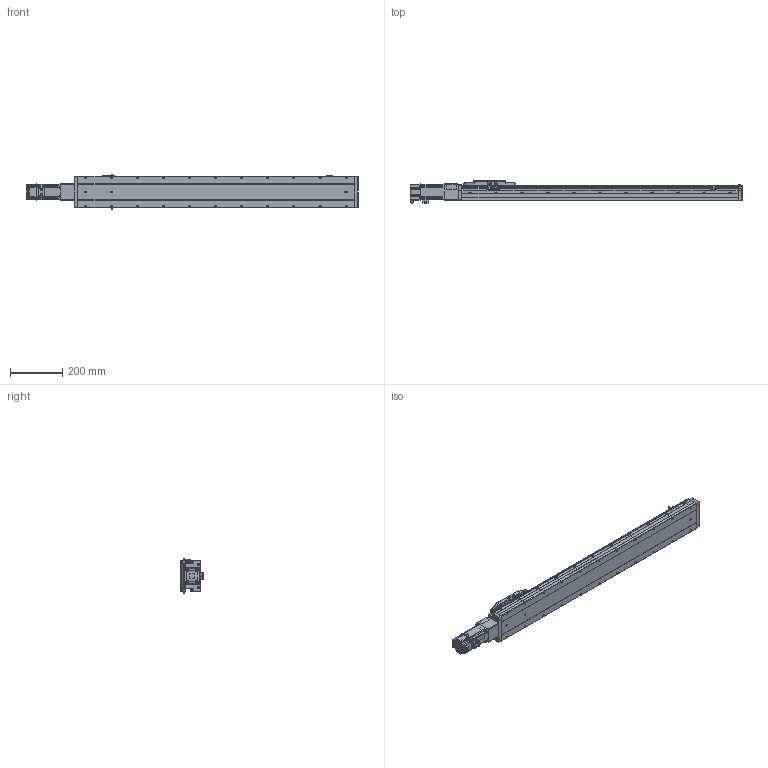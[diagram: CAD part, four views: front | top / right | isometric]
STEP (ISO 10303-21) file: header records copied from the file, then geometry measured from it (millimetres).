
FILE_DESCRIPTION (( 'STEP AP214' ), '1' );
FILE_NAME ('CTH12-L10-S850-BC-C40（简）.STEP', '2023-02-06T05:15:32', ( '' ), ( '' ), 'SwSTEP 2.0', 'SolidWorks 2018', '' );
FILE_SCHEMA (( 'AUTOMOTIVE_DESIGN' ));
Length unit declared in the file: millimetre
Products named in the file (23): CTH12-BL_body_4; hex nuts, style 1-grades ab gb_GB_FASTENER_NUT_SNAB1 M3-N; CTH12_body_3; CTH12萇儂釱; CTH12賑怢ㄗ潠ㄘ; CTH12-BC-06-T40（cth8-bc-06-t40-G）_1; 嫖萇羲壽郪磁2; M5蹟隊; CTH嫖萇羲壽假蚾啣; CTH12賑怢郪磁; 内六角圆柱头螺钉M3; CTH12; 湮賑怢  裔赽-1(CTH12)賑怢; 蚐郲; CTH12覜茼え; 400W萇儂; CTH12-L10-S850-BC-C40（简）; 内六角圆柱头螺钉M3-2; 内六角圆柱头螺钉M3-1; CTH12-BC-03_1; PM-Y45; CTH12底座-L1061简（850行程）; 嫖萇羲壽郪磁1333
Assembly tree (43 placements, depth 4):
  CTH12-L10-S850-BC-C40（简）
    CTH12底座-L1061简（850行程）
    蚐郲  x2
    CTH12-BL_body_4
    CTH12_body_3
    CTH12賑怢郪磁
      CTH12
        湮賑怢  裔赽-1(CTH12)賑怢
        CTH12賑怢ㄗ潠ㄘ
    CTH12覜茼え
    嫖萇羲壽郪磁2
      CTH嫖萇羲壽假蚾啣
      PM-Y45
      内六角圆柱头螺钉M3-1  x2
      内六角圆柱头螺钉M3-2  x2
      hex nuts, style 1-grades ab gb_GB_FASTENER_NUT_SNAB1 M3-N  x2
    CTH12萇儂釱
      CTH12-BC-03_1
      CTH12-BC-06-T40（cth8-bc-06-t40-G）_1
    嫖萇羲壽郪磁1333  x2
      CTH嫖萇羲壽假蚾啣
      PM-Y45
      内六角圆柱头螺钉M3-2
      内六角圆柱头螺钉M3-1
      hex nuts, style 1-grades ab gb_GB_FASTENER_NUT_SNAB1 M3-N
    内六角圆柱头螺钉M3  x6
    400W萇儂
    M5蹟隊  x4
Bounding box: 1275.8 x 86.5 x 131.52 mm (x, y, z)
Volume: 7399384.3 mm3; surface area: 690656.8 mm2
Topology: 45 solids, 47 shells, 2993 faces, 7431 edges, 4663 vertices
Faces by surface type: plane 1472, cylinder 896, cone 359, bspline 138, torus 124, sphere 4
Entity records: 93256 total; most frequent: CARTESIAN_POINT 31814, ORIENTED_EDGE 11964, DIRECTION 11677, EDGE_CURVE 5982, AXIS2_PLACEMENT_3D 4101, VERTEX_POINT 3767, LINE 3475, VECTOR 3475
